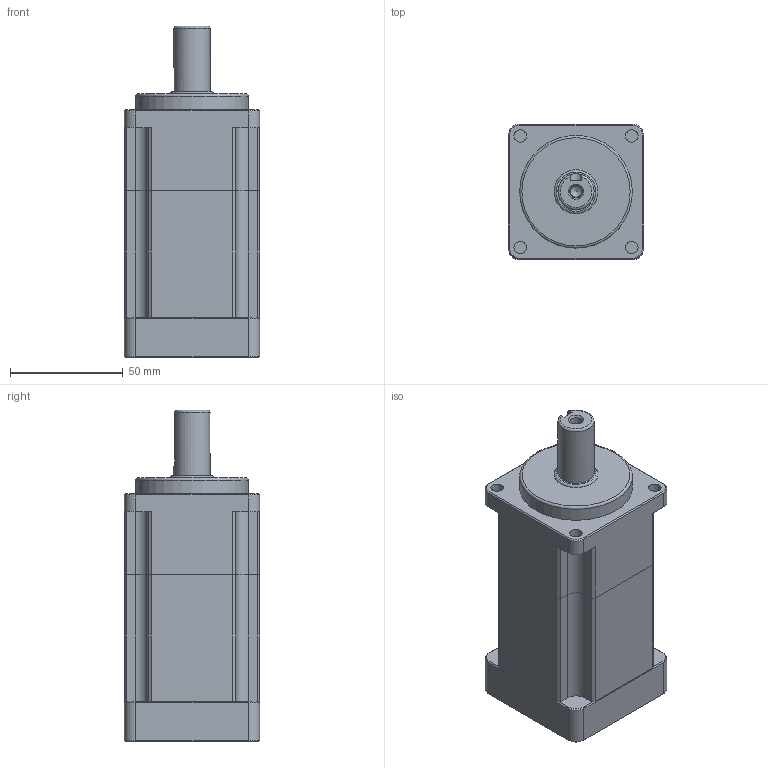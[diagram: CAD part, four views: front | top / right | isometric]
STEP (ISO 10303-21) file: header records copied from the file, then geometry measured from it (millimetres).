
FILE_DESCRIPTION((''),'2;1');
FILE_NAME('\\File-server\연구소\카달로그-전체\카탈로그-2005 신규\카탈로그-국문\PLANETARY GEAR HEAD\SPI060\SPI060S015~100A.stp','2008-09-23T09:19:50',('ji-joe'),(''),'Autodesk Inventor 2009','Autodesk Inventor 2009','');
FILE_SCHEMA(('AUTOMOTIVE_DESIGN { 1 0 10303 214 1 1 1 1 }'));
Length unit declared in the file: millimetre
Products named in the file (4): SPI060 2단; SPI060 앞; SPI060 뒤; SPI060 IN
Assembly tree (3 placements, depth 2):
  SPI060 2단
    SPI060 앞
    SPI060 뒤
    SPI060 IN
Bounding box: 60 x 60 x 147 mm (x, y, z)
Volume: 350185.3 mm3; surface area: 52599.7 mm2
Topology: 3 solids, 3 shells, 143 faces, 374 edges, 241 vertices
Faces by surface type: plane 66, cylinder 40, bspline 20, cone 14, torus 3
Full cylindrical faces by diameter (mm): 14 x1, 16 x1, 17 x1, 47 x1, 50 x1
Entity records: 4600 total; most frequent: CARTESIAN_POINT 1148, DIRECTION 711, ORIENTED_EDGE 660, EDGE_CURVE 330, AXIS2_PLACEMENT_3D 256, VERTEX_POINT 223, VECTOR 199, LINE 199
